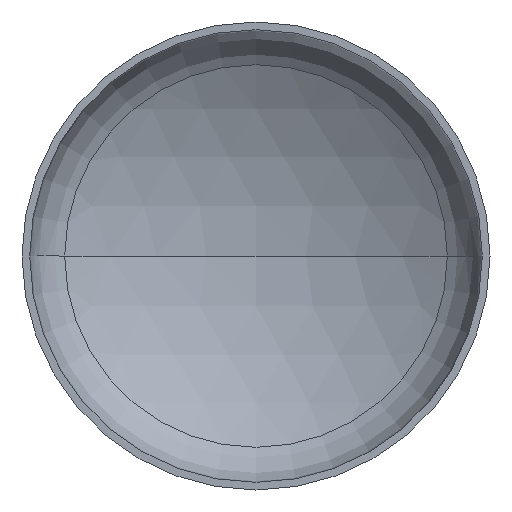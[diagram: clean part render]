
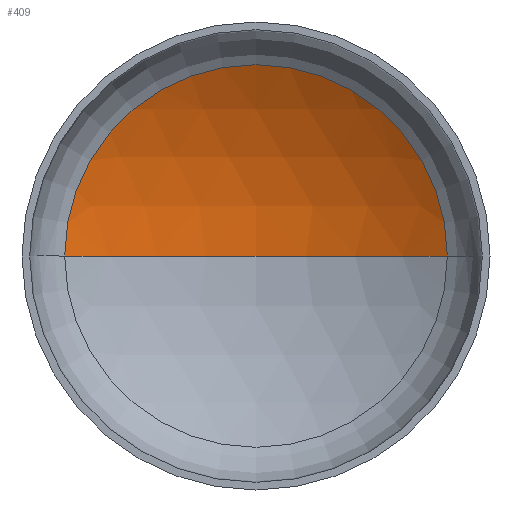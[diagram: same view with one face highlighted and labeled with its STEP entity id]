
A CAD part, front view. The second image highlights one B-rep face of the part: STEP entity #409.
In plain terms, the highlighted spherical face has radius 1360 mm.
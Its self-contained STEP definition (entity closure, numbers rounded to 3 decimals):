
#1 = CARTESIAN_POINT ( 'NONE',  ( 0., -860.598, 0. ) ) ;
#15 = AXIS2_PLACEMENT_3D ( 'NONE', #332, #254, #91 ) ;
#24 = ORIENTED_EDGE ( 'NONE', *, *, #80, .T. ) ;
#28 = CARTESIAN_POINT ( 'NONE',  ( -694.836, 308.505, 0. ) ) ;
#33 = AXIS2_PLACEMENT_3D ( 'NONE', #1, #245, #375 ) ;
#35 = AXIS2_PLACEMENT_3D ( 'NONE', #152, #157, #356 ) ;
#77 = EDGE_CURVE ( 'NONE', #127, #162, #259, .T. ) ;
#80 = EDGE_CURVE ( 'NONE', #230, #127, #307, .T. ) ;
#91 = DIRECTION ( 'NONE',  ( 1., 0., 0. ) ) ;
#127 = VERTEX_POINT ( 'NONE', #283 ) ;
#136 = CIRCLE ( 'NONE', #15, 1360. ) ;
#152 = CARTESIAN_POINT ( 'NONE',  ( 0., 308.505, 0. ) ) ;
#155 = ORIENTED_EDGE ( 'NONE', *, *, #77, .T. ) ;
#157 = DIRECTION ( 'NONE',  ( 0., -1., 0. ) ) ;
#162 = VERTEX_POINT ( 'NONE', #28 ) ;
#173 = ORIENTED_EDGE ( 'NONE', *, *, #350, .F. ) ;
#181 = FACE_OUTER_BOUND ( 'NONE', #402, .T. ) ;
#228 = CARTESIAN_POINT ( 'NONE',  ( 0., 499.402, 0. ) ) ;
#230 = VERTEX_POINT ( 'NONE', #228 ) ;
#238 = AXIS2_PLACEMENT_3D ( 'NONE', #269, #339, #382 ) ;
#245 = DIRECTION ( 'NONE',  ( 0., 0., -1. ) ) ;
#254 = DIRECTION ( 'NONE',  ( 0., 0., 1. ) ) ;
#259 = CIRCLE ( 'NONE', #35, 694.836 ) ;
#269 = CARTESIAN_POINT ( 'NONE',  ( 0., -860.598, 0. ) ) ;
#283 = CARTESIAN_POINT ( 'NONE',  ( 694.836, 308.505, 0. ) ) ;
#307 = CIRCLE ( 'NONE', #33, 1360. ) ;
#310 = SPHERICAL_SURFACE ( 'NONE', #238, 1360. ) ;
#332 = CARTESIAN_POINT ( 'NONE',  ( 0., -860.598, 0. ) ) ;
#339 = DIRECTION ( 'NONE',  ( 0., 0., -1. ) ) ;
#350 = EDGE_CURVE ( 'NONE', #230, #162, #136, .T. ) ;
#356 = DIRECTION ( 'NONE',  ( 1., 0., 0. ) ) ;
#375 = DIRECTION ( 'NONE',  ( -1., 0., 0. ) ) ;
#382 = DIRECTION ( 'NONE',  ( -1., 0., 0. ) ) ;
#402 = EDGE_LOOP ( 'NONE', ( #173, #24, #155 ) ) ;
#409 = ADVANCED_FACE ( 'NONE', ( #181 ), #310, .F. ) ;
